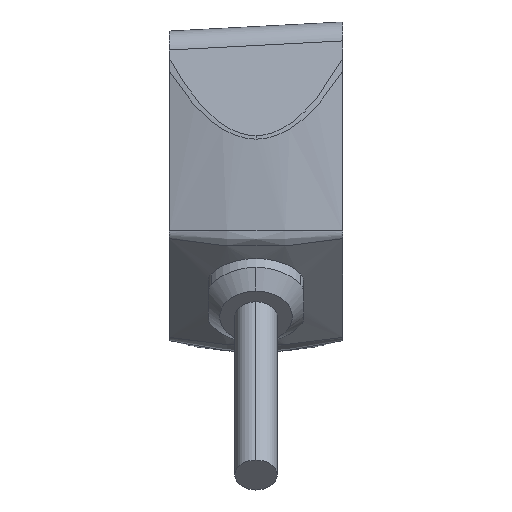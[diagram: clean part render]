
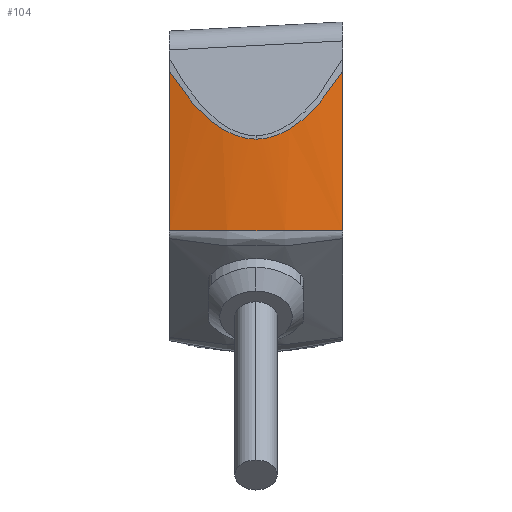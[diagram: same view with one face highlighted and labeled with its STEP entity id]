
A CAD part, front view. The second image highlights one B-rep face of the part: STEP entity #104.
In plain terms, the highlighted cylindrical face has radius 30 mm (diameter 60 mm), a partial arc.
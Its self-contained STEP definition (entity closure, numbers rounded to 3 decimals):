
#104=ADVANCED_FACE('',(#291),#3030,.T.);
#291=FACE_OUTER_BOUND('',#482,.T.);
#482=EDGE_LOOP('',(#951,#952,#953,#954,#955));
#951=ORIENTED_EDGE('',*,*,#1767,.T.);
#952=ORIENTED_EDGE('',*,*,#1768,.T.);
#953=ORIENTED_EDGE('',*,*,#1769,.F.);
#954=ORIENTED_EDGE('',*,*,#1770,.T.);
#955=ORIENTED_EDGE('',*,*,#1744,.F.);
#1744=EDGE_CURVE('',#2827,#2824,#2443,.T.);
#1767=EDGE_CURVE('',#2827,#2840,#2239,.T.);
#1768=EDGE_CURVE('',#2840,#2770,#2240,.T.);
#1769=EDGE_CURVE('',#2773,#2770,#2241,.T.);
#1770=EDGE_CURVE('',#2773,#2824,#2242,.T.);
#2239=B_SPLINE_CURVE_WITH_KNOTS('',1,(#6902,#6903),.UNSPECIFIED.,.F.,.F.,
(2,2),(0.,14.234),.UNSPECIFIED.);
#2240=B_SPLINE_CURVE_WITH_KNOTS('',3,(#6904,#6905,#6906,#6907,#6908,#6909,
#6910,#6911,#6912,#6913,#6914),.UNSPECIFIED.,.F.,.F.,(4,2,1,2,2,4),(0.,
2.591,3.886,4.534,5.182,10.363),
 .UNSPECIFIED.);
#2241=B_SPLINE_CURVE_WITH_KNOTS('',3,(#6915,#6916,#6917,#6918,#6919,#6920,
#6921,#6922,#6923,#6924,#6925),.UNSPECIFIED.,.F.,.F.,(4,2,2,1,2,4),(-10.323,
-5.161,-4.516,-3.871,-2.581,
0.),.UNSPECIFIED.);
#2242=B_SPLINE_CURVE_WITH_KNOTS('',1,(#6926,#6927),.UNSPECIFIED.,.F.,.F.,
(2,2),(0.,14.234),.UNSPECIFIED.);
#2443=TRIMMED_CURVE($,#2561,(#6805),(#6806),.T.,.CARTESIAN.);
#2561=CIRCLE('',#3366,30.);
#2770=VERTEX_POINT('',#5943);
#2773=VERTEX_POINT('',#5946);
#2824=VERTEX_POINT('',#5997);
#2827=VERTEX_POINT('',#6000);
#2840=VERTEX_POINT('',#6013);
#3030=CYLINDRICAL_SURFACE('',#3273,30.);
#3273=AXIS2_PLACEMENT_3D('',#4367,#3501,$);
#3366=AXIS2_PLACEMENT_3D($,#6804,#3632,#3633);
#3501=DIRECTION('',(0.,0.,-1.));
#3632=DIRECTION('',(0.,0.,-1.));
#3633=DIRECTION('',(0.258,-0.966,0.));
#4367=CARTESIAN_POINT('',(0.,30.,-10.755));
#5943=CARTESIAN_POINT('',(0.,0.,-9.657));
#5946=CARTESIAN_POINT('',(-7.75,1.018,-3.637));
#5997=CARTESIAN_POINT('',(-7.75,1.018,-17.872));
#6000=CARTESIAN_POINT('',(7.75,1.018,-17.872));
#6013=CARTESIAN_POINT('',(7.75,1.018,-3.637));
#6804=CARTESIAN_POINT('',(0.,30.,-17.872));
#6805=CARTESIAN_POINT('',(7.75,1.018,-17.872));
#6806=CARTESIAN_POINT('',(-7.75,1.018,-17.872));
#6902=CARTESIAN_POINT('',(7.75,1.018,-17.872));
#6903=CARTESIAN_POINT('',(7.75,1.018,-3.637));
#6904=CARTESIAN_POINT('',(7.75,1.018,-3.637));
#6905=CARTESIAN_POINT('',(7.116,0.849,-4.639));
#6906=CARTESIAN_POINT('',(6.478,0.701,-5.516));
#6907=CARTESIAN_POINT('',(5.517,0.51,-6.643));
#6908=CARTESIAN_POINT('',(5.035,0.422,-7.16));
#6909=CARTESIAN_POINT('',(4.553,0.347,-7.606));
#6910=CARTESIAN_POINT('',(4.231,0.299,-7.887));
#6911=CARTESIAN_POINT('',(4.07,0.277,-8.02));
#6912=CARTESIAN_POINT('',(2.611,0.085,-9.153));
#6913=CARTESIAN_POINT('',(1.305,0.,-9.657));
#6914=CARTESIAN_POINT('',(0.,0.,-9.657));
#6915=CARTESIAN_POINT('',(-7.75,1.018,-3.637));
#6916=CARTESIAN_POINT('',(-6.482,0.679,-5.641));
#6917=CARTESIAN_POINT('',(-5.198,0.425,-7.144));
#6918=CARTESIAN_POINT('',(-3.747,0.234,-8.271));
#6919=CARTESIAN_POINT('',(-3.584,0.214,-8.39));
#6920=CARTESIAN_POINT('',(-3.259,0.177,-8.61));
#6921=CARTESIAN_POINT('',(-2.771,0.125,-8.917));
#6922=CARTESIAN_POINT('',(-2.283,0.085,-9.153));
#6923=CARTESIAN_POINT('',(-1.305,0.021,-9.531));
#6924=CARTESIAN_POINT('',(-0.652,0.,-9.657));
#6925=CARTESIAN_POINT('',(0.,0.,-9.657));
#6926=CARTESIAN_POINT('',(-7.75,1.018,-3.637));
#6927=CARTESIAN_POINT('',(-7.75,1.018,-17.872));
